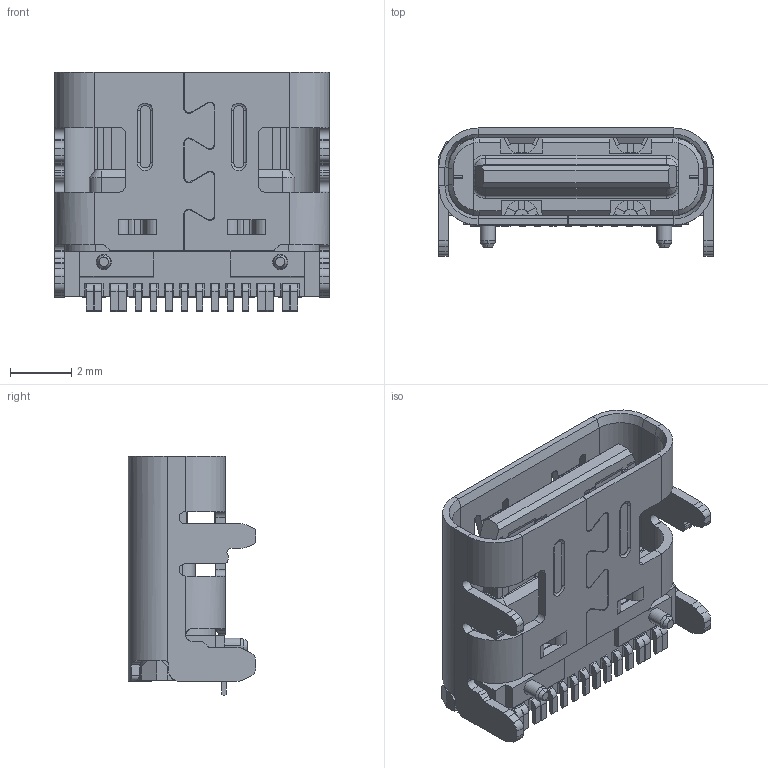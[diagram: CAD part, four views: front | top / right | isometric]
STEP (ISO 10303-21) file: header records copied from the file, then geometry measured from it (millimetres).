
FILE_DESCRIPTION((''),'2;1');
FILE_NAME('CF_16PIN_7_35_','2025-08-18T',('PMT1 SFT'),(''),'PRO/ENGINEER BY PARAMETRIC TECHNOLOGY CORPORATION, 2011490','PRO/ENGINEER BY PARAMETRIC TECHNOLOGY CORPORATION, 2011490','');
FILE_SCHEMA(('CONFIG_CONTROL_DESIGN'));
Length unit declared in the file: millimetre
Products named in the file (1): CF_16PIN_7_35_
Bounding box: 8.95 x 4.16 x 7.8 mm (x, y, z)
Volume: 113.5 mm3; surface area: 475.2 mm2
Topology: 1 solids, 1 shells, 908 faces, 2526 edges, 1611 vertices
Faces by surface type: plane 664, cylinder 196, cone 24, torus 12, bspline 10, extrusion 2
Entity records: 29276 total; most frequent: CARTESIAN_POINT 5819, ORIENTED_EDGE 5052, DIRECTION 4680, EDGE_CURVE 2526, VECTOR 2008, LINE 2006, VERTEX_POINT 1611, AXIS2_PLACEMENT_3D 1336
